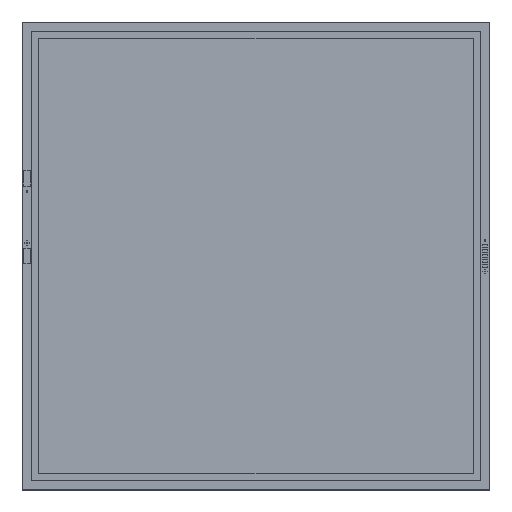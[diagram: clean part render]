
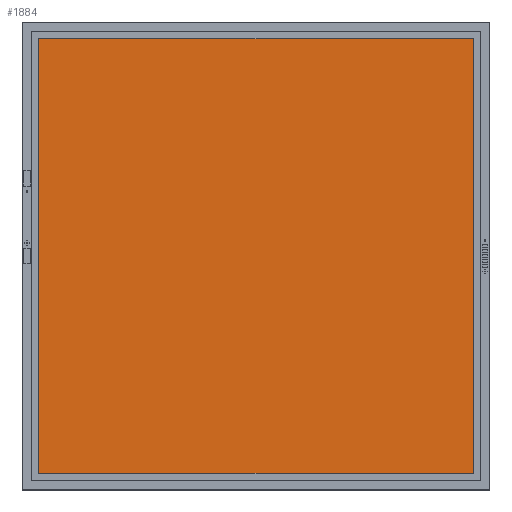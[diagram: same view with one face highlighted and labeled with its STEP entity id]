
A CAD part, top view. The second image highlights one B-rep face of the part: STEP entity #1884.
In plain terms, the highlighted planar face has unit normal (0, 0, 1).
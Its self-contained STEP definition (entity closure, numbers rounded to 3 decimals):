
#214=FACE_OUTER_BOUND($,#326,.T.);
#326=EDGE_LOOP($,(#1665,#1666,#1667,#1668));
#551=LINE($,#2920,#791);
#554=LINE($,#2926,#794);
#557=LINE($,#2932,#797);
#560=LINE($,#2936,#800);
#791=VECTOR($,#2407,111.8);
#794=VECTOR($,#2412,111.8);
#797=VECTOR($,#2417,111.8);
#800=VECTOR($,#2422,111.8);
#959=VERTEX_POINT($,#2917);
#960=VERTEX_POINT($,#2919);
#962=VERTEX_POINT($,#2925);
#964=VERTEX_POINT($,#2931);
#1191=EDGE_CURVE($,#960,#959,#551,.T.);
#1194=EDGE_CURVE($,#962,#960,#554,.T.);
#1197=EDGE_CURVE($,#964,#962,#557,.T.);
#1200=EDGE_CURVE($,#959,#964,#560,.T.);
#1665=ORIENTED_EDGE($,*,*,#1200,.T.);
#1666=ORIENTED_EDGE($,*,*,#1197,.T.);
#1667=ORIENTED_EDGE($,*,*,#1194,.T.);
#1668=ORIENTED_EDGE($,*,*,#1191,.T.);
#1785=PLANE($,#1994);
#1884=ADVANCED_FACE($,(#214),#1785,.T.);
#1994=AXIS2_PLACEMENT_3D($,#2938,#2425,#2426);
#2407=DIRECTION($,(0.,1.,0.));
#2412=DIRECTION($,(1.,0.,0.));
#2417=DIRECTION($,(0.,-1.,0.));
#2422=DIRECTION($,(-1.,0.,0.));
#2425=DIRECTION('center_axis',(0.,0.,1.));
#2426=DIRECTION('ref_axis',(1.,0.,0.));
#2917=CARTESIAN_POINT('',(55.9,55.9,0.26));
#2919=CARTESIAN_POINT('',(55.9,-55.9,0.26));
#2920=CARTESIAN_POINT($,(55.9,55.9,0.26));
#2925=CARTESIAN_POINT('',(-55.9,-55.9,0.26));
#2926=CARTESIAN_POINT($,(55.9,-55.9,0.26));
#2931=CARTESIAN_POINT('',(-55.9,55.9,0.26));
#2932=CARTESIAN_POINT($,(-55.9,-55.9,0.26));
#2936=CARTESIAN_POINT($,(-55.9,55.9,0.26));
#2938=CARTESIAN_POINT('Origin',(0.,0.,
0.26));
